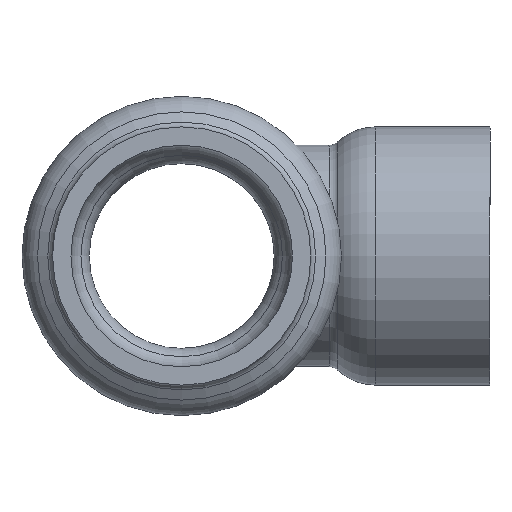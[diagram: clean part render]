
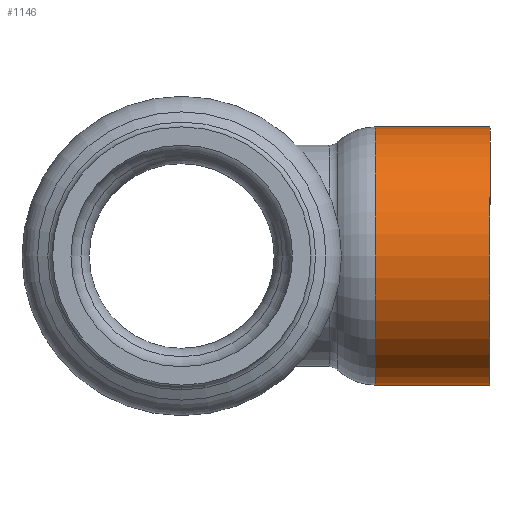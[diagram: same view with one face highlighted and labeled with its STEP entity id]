
A CAD part, left-side view. The second image highlights one B-rep face of the part: STEP entity #1146.
In plain terms, the highlighted cylindrical face has radius 19.469 mm (diameter 38.938 mm), a full revolution.
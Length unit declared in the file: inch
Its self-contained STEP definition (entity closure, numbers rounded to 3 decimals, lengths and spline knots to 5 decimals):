
#84=FACE_OUTER_BOUND('',#133,.T.);
#133=EDGE_LOOP('',(#720,#721,#722,#723,#724,#725));
#186=CIRCLE('',#1222,0.7665);
#187=CIRCLE('',#1223,0.7665);
#188=CIRCLE('',#1224,0.7665);
#189=CIRCLE('',#1225,0.7665);
#337=LINE('',#1927,#361);
#361=VECTOR('',#1459,0.7665);
#398=VERTEX_POINT('',#1922);
#399=VERTEX_POINT('',#1923);
#400=VERTEX_POINT('',#1926);
#401=VERTEX_POINT('',#1928);
#535=EDGE_CURVE('',#398,#399,#186,.T.);
#536=EDGE_CURVE('',#399,#398,#187,.T.);
#537=EDGE_CURVE('',#399,#400,#337,.T.);
#538=EDGE_CURVE('',#400,#401,#188,.T.);
#539=EDGE_CURVE('',#401,#400,#189,.T.);
#720=ORIENTED_EDGE('',*,*,#535,.F.);
#721=ORIENTED_EDGE('',*,*,#536,.F.);
#722=ORIENTED_EDGE('',*,*,#537,.T.);
#723=ORIENTED_EDGE('',*,*,#538,.T.);
#724=ORIENTED_EDGE('',*,*,#539,.T.);
#725=ORIENTED_EDGE('',*,*,#537,.F.);
#1081=CYLINDRICAL_SURFACE('',#1221,0.7665);
#1146=ADVANCED_FACE('',(#84),#1081,.T.);
#1221=AXIS2_PLACEMENT_3D('',#1921,#1453,#1454);
#1222=AXIS2_PLACEMENT_3D('',#1924,#1455,#1456);
#1223=AXIS2_PLACEMENT_3D('',#1925,#1457,#1458);
#1224=AXIS2_PLACEMENT_3D('',#1929,#1460,#1461);
#1225=AXIS2_PLACEMENT_3D('',#1930,#1462,#1463);
#1453=DIRECTION('center_axis',(0.,1.,0.));
#1454=DIRECTION('ref_axis',(0.,0.,1.));
#1455=DIRECTION('center_axis',(0.,1.,0.));
#1456=DIRECTION('ref_axis',(0.,0.,1.));
#1457=DIRECTION('center_axis',(0.,1.,0.));
#1458=DIRECTION('ref_axis',(0.,0.,1.));
#1459=DIRECTION('',(0.,-1.,0.));
#1460=DIRECTION('center_axis',(0.,1.,0.));
#1461=DIRECTION('ref_axis',(0.,0.,1.));
#1462=DIRECTION('center_axis',(0.,1.,0.));
#1463=DIRECTION('ref_axis',(0.,0.,1.));
#1921=CARTESIAN_POINT('Origin',(0.,-1.49,0.));
#1922=CARTESIAN_POINT('',(0.,-1.15,0.7665));
#1923=CARTESIAN_POINT('',(0.,-1.15,-0.7665));
#1924=CARTESIAN_POINT('Origin',(0.,-1.15,0.));
#1925=CARTESIAN_POINT('Origin',(0.,-1.15,0.));
#1926=CARTESIAN_POINT('',(0.,-1.83,-0.7665));
#1927=CARTESIAN_POINT('',(0.,-1.49,-0.7665));
#1928=CARTESIAN_POINT('',(0.,-1.83,0.7665));
#1929=CARTESIAN_POINT('Origin',(0.,-1.83,0.));
#1930=CARTESIAN_POINT('Origin',(0.,-1.83,0.));
